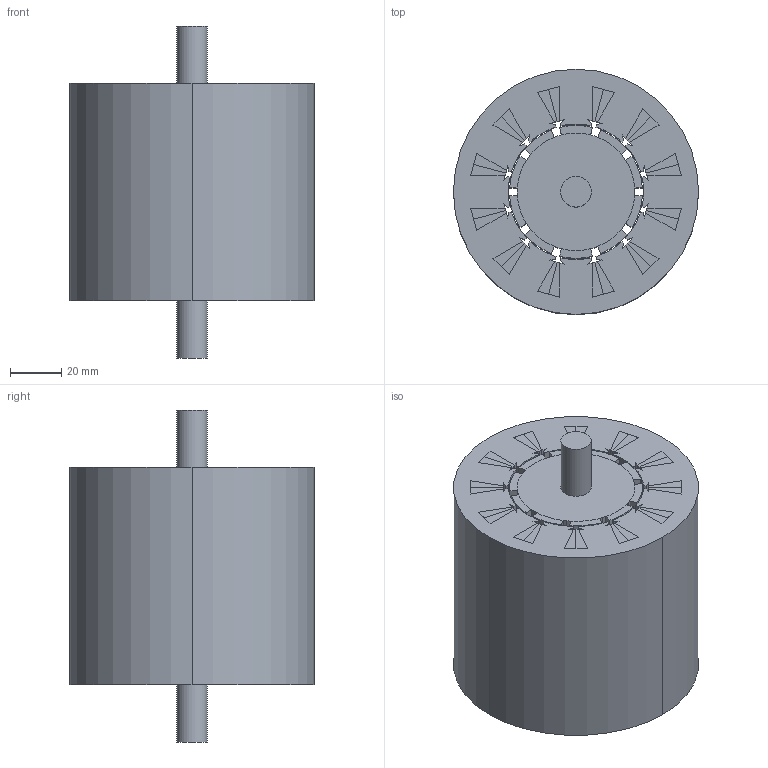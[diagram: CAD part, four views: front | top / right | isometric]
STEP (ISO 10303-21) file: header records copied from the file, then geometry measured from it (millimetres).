
FILE_DESCRIPTION(('FreeCAD Model'),'2;1');
FILE_NAME('Open CASCADE Shape Model','2026-11-06T09:52:55',('FreeCAD'),( 'FreeCAD'),'Open CASCADE STEP processor 7.8','FreeCAD','Unknown');
FILE_SCHEMA(('AUTOMOTIVE_DESIGN { 1 0 10303 214 1 1 1 1 }'));
Length unit declared in the file: millimetre
Products named in the file (1): Open CASCADE STEP translator 7.8 38
Bounding box: 96 x 96 x 130 mm (x, y, z)
Volume: 599384 mm3; surface area: 210686 mm2
Topology: 37 solids, 37 shells, 415 faces, 1023 edges, 682 vertices
Faces by surface type: plane 298, cylinder 117
Full cylindrical faces by diameter (mm): 12 x1
Entity records: 12177 total; most frequent: CARTESIAN_POINT 2121, DIRECTION 2089, ORIENTED_EDGE 2046, EDGE_CURVE 1023, LINE 789, VECTOR 789, VERTEX_POINT 682, AXIS2_PLACEMENT_3D 650
